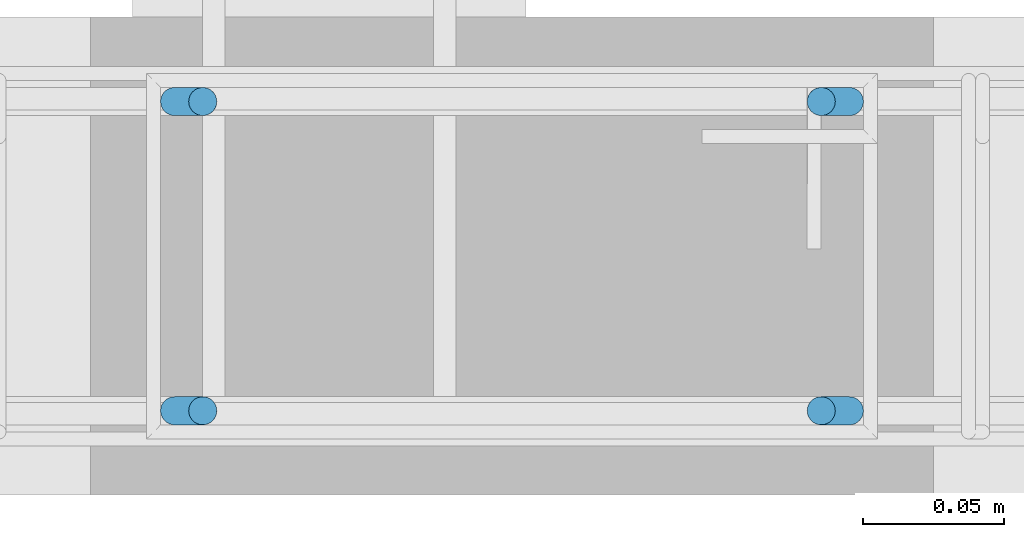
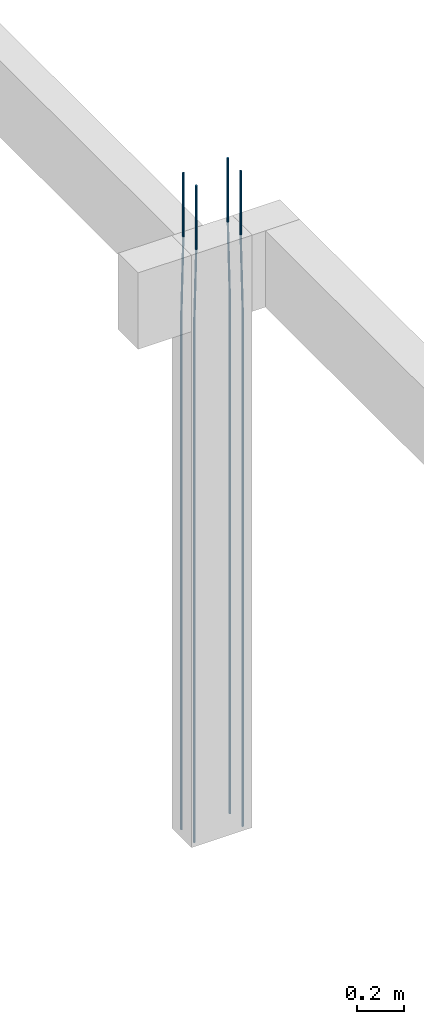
# One storey, part 111 of 236: 4 reinforcing bars.
"""IFC4 building model written with IfcOpenShell, lengths in centimetres."""

import ifcopenshell
import ifcopenshell.guid

model = None  # the IFC model being written
_history = None  # IfcOwnerHistory: only IFC2X3 demands one
_inside = {}  # id of a spatial element -> (the spatial element, [elements in it])
_under = {}  # id of a project, library or spatial element -> (it, [spatial elements below it])
_declared = {}  # id of a project -> (the project, [libraries it declares])
_typed = {}  # id of a type object -> (the type object, [elements of that type])
_made_of = {}  # id of a material, layer set ... -> (it, [elements and type objects made of it])


def new_model(schema):
    """Start an empty IFC model of exactly this schema.

    Asked for "IFC4X3", IfcOpenShell would pick the latest addendum, in which some entities
    have other attributes; the version numbers below select the first issue.
    IFC2X3 requires an IfcOwnerHistory on every rooted entity: one is made here for all.
    """
    global model, _history
    if schema == "IFC4X3":
        model = ifcopenshell.file(schema_version=(4, 3, 0, 0))
    else:
        model = ifcopenshell.file(schema=schema)
    _inside.clear()
    _under.clear()
    _declared.clear()
    _typed.clear()
    _made_of.clear()
    _history = None
    if model.schema == "IFC2X3":
        org = make("IfcOrganization", Name="unknown")
        user = make(
            "IfcPersonAndOrganization",
            ThePerson=make("IfcPerson", FamilyName="unknown"),
            TheOrganization=org,
        )
        app = make(
            "IfcApplication",
            ApplicationDeveloper=org,
            Version="unknown",
            ApplicationFullName="unknown",
            ApplicationIdentifier="unknown",
        )
        _history = make(
            "IfcOwnerHistory",
            OwningUser=user,
            OwningApplication=app,
            ChangeAction="ADDED",
            CreationDate=0,
        )
    return model


def make(cls, **values):
    """One entity of the class cls with the attributes given. An attribute that is None is left unset."""
    return model.create_entity(
        cls, **{name: value for name, value in values.items() if value is not None}
    )


def entity(cls, *values):
    """Any entity or typed value of the class cls, its attributes in the order of the schema. None: left unset."""
    e = model.create_entity(cls)
    for i, value in enumerate(values):
        if value is not None:
            e[i] = value
    return e


def rooted(cls, **values):
    """An entity with a GlobalId (a new one), such as an element, a storey or a relation."""
    return make(cls, GlobalId=ifcopenshell.guid.new(), OwnerHistory=_history, **values)


def si_unit(unit_type, name, prefix=None):
    """IfcSIUnit, for example si_unit("LENGTHUNIT", "METRE", prefix="MILLI")."""
    return make("IfcSIUnit", UnitType=unit_type, Prefix=prefix, Name=name)


def derived_unit(unit_type, elements):
    """IfcDerivedUnit: a product of units, each with its exponent."""
    return make(
        "IfcDerivedUnit",
        Elements=[
            make("IfcDerivedUnitElement", Unit=unit, Exponent=power)
            for unit, power in elements
        ],
        UnitType=unit_type,
    )


def assignment(units):
    """IfcUnitAssignment: the units of a project."""
    return None if units is None else make("IfcUnitAssignment", Units=units)


def point(xyz):
    """IfcCartesianPoint."""
    return None if xyz is None else make("IfcCartesianPoint", Coordinates=xyz)


def direction(xyz):
    """IfcDirection."""
    return None if xyz is None else make("IfcDirection", DirectionRatios=xyz)


def frame(location, z_axis=None, x_axis=None):
    """IfcAxis2Placement3D, a coordinate frame: its origin and axes. An axis left out is left unset."""
    return make(
        "IfcAxis2Placement3D",
        Location=point(location),
        Axis=direction(z_axis),
        RefDirection=direction(x_axis),
    )


def origin_with_axes():
    """The frame at (0, 0, 0) with the z axis (0, 0, 1) and the x axis (1, 0, 0) written out."""
    return frame((0.0, 0.0, 0.0), z_axis=(0.0, 0.0, 1.0), x_axis=(1.0, 0.0, 0.0))


def place(relative_to, where):
    """IfcLocalPlacement: puts the frame where relative to a parent placement (None: the world)."""
    return make(
        "IfcLocalPlacement", PlacementRelTo=relative_to, RelativePlacement=where
    )


def context(
    kind, dimensions, precision=None, world=None, true_north=None, identifier=None
):
    """IfcGeometricRepresentationContext, for example the 3D "Model" context."""
    return make(
        "IfcGeometricRepresentationContext",
        ContextIdentifier=identifier,
        ContextType=kind,
        CoordinateSpaceDimension=dimensions,
        Precision=precision,
        WorldCoordinateSystem=world,
        TrueNorth=true_north,
    )


def project(units=None, contexts=None):
    """IfcProject with its units and contexts."""
    return rooted(
        "IfcProject",
        Name="project",
        RepresentationContexts=contexts,
        UnitsInContext=assignment(units),
    )


def spatial(cls, under=None, at=None, **own):
    """A site, building, storey or space (cls), placed at a placement, below another one or the project."""
    s = rooted(cls, ObjectPlacement=at, **own)
    if under is not None:
        _under.setdefault(under.id(), (under, []))[1].append(s)
    return s


def shape(context_of_items, identifier, shape_type, items):
    """IfcShapeRepresentation: the items that make up one representation, for example the "Body"."""
    return make(
        "IfcShapeRepresentation",
        ContextOfItems=context_of_items,
        RepresentationIdentifier=identifier,
        RepresentationType=shape_type,
        Items=items,
    )


def made_of(thing, what):
    """Note that an element or type object is made of a material, layer set ...; save() writes the relation."""
    if what is not None:
        _made_of.setdefault(what.id(), (what, []))[1].append(thing)
    return thing


def element(
    cls,
    number,
    at=None,
    inside=None,
    cuts=None,
    type_object=None,
    material=None,
    context=None,
    identifier="Body",
    shape_type=None,
    held_by="IfcProductDefinitionShape",
    body=None,
    shapes=None,
    **own,
):
    """One element of the class cls, such as IfcWall. Its Tag is "e" and its number.

    at: its placement. inside: the storey or other place that contains it. cuts: it is an
    opening in that element (IfcRelVoidsElement). A single representation is given by context,
    identifier, shape_type and body (its items); several are given by shapes. held_by: the class
    of the entity that holds the representations. save() writes the other relations.
    """
    e = rooted(cls, Tag="e%d" % number, ObjectPlacement=at, **own)
    if body is not None:
        shapes = [shape(context, identifier, shape_type, body)]
    if shapes is not None:
        e.Representation = make(held_by, Representations=shapes)
    if inside is not None:
        _inside.setdefault(inside.id(), (inside, []))[1].append(e)
    if cuts is not None:
        rooted(
            "IfcRelVoidsElement", RelatingBuildingElement=cuts, RelatedOpeningElement=e
        )
    if type_object is not None:
        _typed.setdefault(type_object.id(), (type_object, []))[1].append(e)
    return made_of(e, material)


def aggregate(whole, parts):
    """IfcRelAggregates: a whole, such as a stair, and the parts it consists of."""
    return rooted("IfcRelAggregates", RelatingObject=whole, RelatedObjects=parts)


def save(model, path):
    """Write the relations noted so far, then the file.

    IfcRelAggregates (storeys below a building ...), IfcRelContainedInSpatialStructure (elements
    in a storey), IfcRelDefinesByType, IfcRelAssociatesMaterial and IfcRelDeclares: one each for
    every whole, place, type object, material and project.
    """
    for whole, parts in _under.values():
        aggregate(whole, parts)
    for where, things in _inside.values():
        rooted(
            "IfcRelContainedInSpatialStructure",
            RelatedElements=things,
            RelatingStructure=where,
        )
    for kind, things in _typed.values():
        rooted("IfcRelDefinesByType", RelatedObjects=things, RelatingType=kind)
    for what, things in _made_of.values():
        rooted("IfcRelAssociatesMaterial", RelatedObjects=things, RelatingMaterial=what)
    for by, libraries in _declared.values():
        rooted("IfcRelDeclares", RelatingContext=by, RelatedDefinitions=libraries)
    model.write(path)


model = new_model("IFC4")

# Units and contexts
model_context = context("Model", 3, precision=1e-05, world=origin_with_axes(), identifier="Body")
ifc_project = project(units=[si_unit("LENGTHUNIT", "METRE", prefix="CENTI"), si_unit("VOLUMEUNIT", "CUBIC_METRE"), si_unit("AREAUNIT", "SQUARE_METRE"), si_unit("POWERUNIT", "WATT"), si_unit("LUMINOUSFLUXUNIT", "LUMEN"), si_unit("ELECTRICCURRENTUNIT", "AMPERE"), si_unit("PRESSUREUNIT", "PASCAL", prefix="KILO"), si_unit("MASSUNIT", "GRAM", prefix="KILO"), si_unit("PLANEANGLEUNIT", "RADIAN"), derived_unit("VOLUMETRICFLOWRATEUNIT", [(si_unit("LENGTHUNIT", "METRE"), 3), (si_unit("TIMEUNIT", "SECOND"), -1)])], contexts=[model_context])

# Site, building, storey
site_placement = place(None, frame((-4000.0, 0.0, 0.0), z_axis=(0.0, 0.0, 1.0), x_axis=(1.0, 0.0, 0.0)))
site = spatial("IfcSite", under=ifc_project, at=site_placement, Name="PADRÃO")
building_placement = place(site_placement, frame((0.0, 0.0, -14.0)))
building = spatial("IfcBuilding", under=site, at=building_placement, Name="CRECHE PRÉ-ESCOLA TIPO 2")
placement_1 = place(building_placement, origin_with_axes())
placement_2 = place(placement_1, frame((0.0, 0.0, 30.0), z_axis=(0.0, 0.0, 1.0), x_axis=(1.0, 0.0, 0.0)))
storey_placement = place(placement_2, frame((0.0, 0.0, 310.0), z_axis=(0.0, 0.0, 1.0), x_axis=(1.0, 0.0, 0.0)))
storey = spatial("IfcBuildingStorey", under=building, at=storey_placement, Name="TERREO", CompositionType="ELEMENT", Elevation=326.0)

# Reinforcing bars
reinforcing_bar_1_placement = place(storey_placement, frame((3361.0, 1305.59, 33.3573001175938), z_axis=(0.0, 0.0, 1.0), x_axis=(1.0, 0.0, 0.0)))
element("IfcReinforcingBar", 1, at=reinforcing_bar_1_placement, inside=storey, Name="P113 - Longitudinal", BarLength=0.0, CrossSectionArea=7.853981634e-05, NominalDiameter=1.0, PredefinedType="MAIN", context=model_context, shape_type="AdvancedSweptSolid", body=[
    entity("IfcSweptDiskSolid", entity("IfcCompositeCurve", [entity("IfcCompositeCurveSegment", "CONTINUOUS", True, entity("IfcPolyline", [entity("IfcCartesianPoint", [-0.5, 0.0, -343.357300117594]), entity("IfcCartesianPoint", [-0.5, 0.0, -73.3573001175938])])), entity("IfcCompositeCurveSegment", "CONTINUOUS", True, entity("IfcPolyline", [entity("IfcCartesianPoint", [-0.5, 0.0, -73.3573001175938]), entity("IfcCartesianPoint", [0.5, 0.0, -33.3573001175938])])), entity("IfcCompositeCurveSegment", "CONTINUOUS", True, entity("IfcPolyline", [entity("IfcCartesianPoint", [0.5, 0.0, -33.3573001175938]), entity("IfcCartesianPoint", [0.5, 0.0, 0.0])]))], False), 0.5),
])
reinforcing_bar_2_placement = place(storey_placement, frame((3384.0, 1305.59, 33.3573001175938), z_axis=(0.0, 0.0, 1.0), x_axis=(1.0, 0.0, 0.0)))
element("IfcReinforcingBar", 2, at=reinforcing_bar_2_placement, inside=storey, Name="P113 - Longitudinal", BarLength=0.0, CrossSectionArea=7.853981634e-05, NominalDiameter=1.0, PredefinedType="MAIN", context=model_context, shape_type="AdvancedSweptSolid", body=[
    entity("IfcSweptDiskSolid", entity("IfcCompositeCurve", [entity("IfcCompositeCurveSegment", "CONTINUOUS", True, entity("IfcPolyline", [entity("IfcCartesianPoint", [0.5, 0.0, -343.357300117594]), entity("IfcCartesianPoint", [0.5, 0.0, -73.3573001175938])])), entity("IfcCompositeCurveSegment", "CONTINUOUS", True, entity("IfcPolyline", [entity("IfcCartesianPoint", [0.5, 0.0, -73.3573001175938]), entity("IfcCartesianPoint", [-0.5, 0.0, -33.3573001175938])])), entity("IfcCompositeCurveSegment", "CONTINUOUS", True, entity("IfcPolyline", [entity("IfcCartesianPoint", [-0.5, 0.0, -33.3573001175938]), entity("IfcCartesianPoint", [-0.5, 0.0, 0.0])]))], False), 0.5),
])
reinforcing_bar_3_placement = place(storey_placement, frame((3361.0, 1294.59, 33.3573001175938), z_axis=(0.0, 0.0, 1.0), x_axis=(1.0, 0.0, 0.0)))
element("IfcReinforcingBar", 3, at=reinforcing_bar_3_placement, inside=storey, Name="P113 - Longitudinal", BarLength=0.0, CrossSectionArea=7.853981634e-05, NominalDiameter=1.0, PredefinedType="MAIN", context=model_context, shape_type="AdvancedSweptSolid", body=[
    entity("IfcSweptDiskSolid", entity("IfcCompositeCurve", [entity("IfcCompositeCurveSegment", "CONTINUOUS", True, entity("IfcPolyline", [entity("IfcCartesianPoint", [-0.5, 0.0, -343.357300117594]), entity("IfcCartesianPoint", [-0.5, 0.0, -73.3573001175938])])), entity("IfcCompositeCurveSegment", "CONTINUOUS", True, entity("IfcPolyline", [entity("IfcCartesianPoint", [-0.5, 0.0, -73.3573001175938]), entity("IfcCartesianPoint", [0.5, 0.0, -33.3573001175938])])), entity("IfcCompositeCurveSegment", "CONTINUOUS", True, entity("IfcPolyline", [entity("IfcCartesianPoint", [0.5, 0.0, -33.3573001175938]), entity("IfcCartesianPoint", [0.5, 0.0, 0.0])]))], False), 0.5),
])
reinforcing_bar_4_placement = place(storey_placement, frame((3384.0, 1294.59, 33.3573001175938), z_axis=(0.0, 0.0, 1.0), x_axis=(1.0, 0.0, 0.0)))
element("IfcReinforcingBar", 4, at=reinforcing_bar_4_placement, inside=storey, Name="P113 - Longitudinal", BarLength=0.0, CrossSectionArea=7.853981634e-05, NominalDiameter=1.0, PredefinedType="MAIN", context=model_context, shape_type="AdvancedSweptSolid", body=[
    entity("IfcSweptDiskSolid", entity("IfcCompositeCurve", [entity("IfcCompositeCurveSegment", "CONTINUOUS", True, entity("IfcPolyline", [entity("IfcCartesianPoint", [0.5, 0.0, -343.357300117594]), entity("IfcCartesianPoint", [0.5, 0.0, -73.3573001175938])])), entity("IfcCompositeCurveSegment", "CONTINUOUS", True, entity("IfcPolyline", [entity("IfcCartesianPoint", [0.5, 0.0, -73.3573001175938]), entity("IfcCartesianPoint", [-0.5, 0.0, -33.3573001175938])])), entity("IfcCompositeCurveSegment", "CONTINUOUS", True, entity("IfcPolyline", [entity("IfcCartesianPoint", [-0.5, 0.0, -33.3573001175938]), entity("IfcCartesianPoint", [-0.5, 0.0, 0.0])]))], False), 0.5),
])

save(model, "model.ifc")
